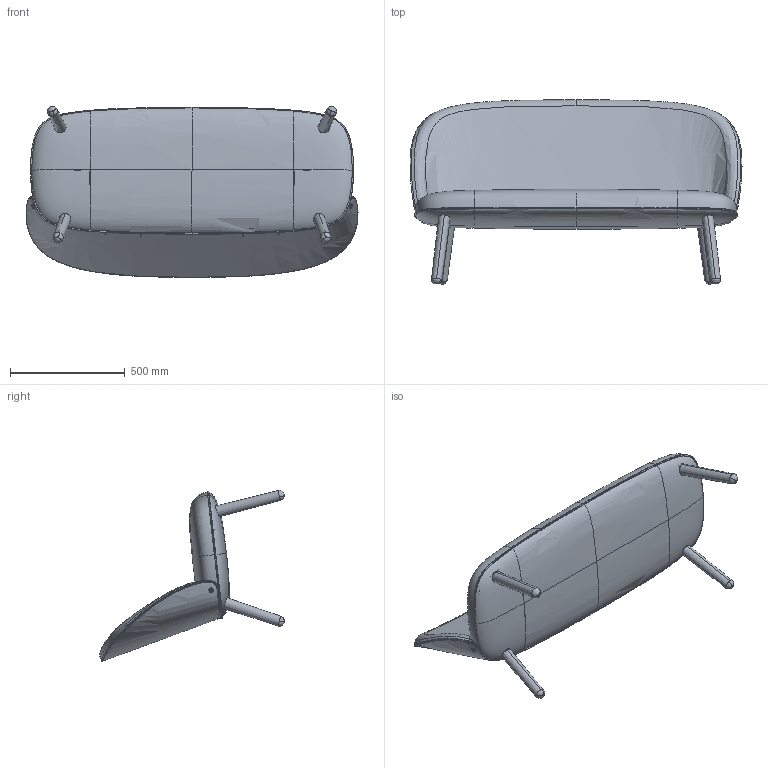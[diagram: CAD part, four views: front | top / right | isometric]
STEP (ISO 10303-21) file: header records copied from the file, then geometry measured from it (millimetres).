
FILE_DESCRIPTION (( 'STEP AP203' ), '1' );
FILE_NAME ('Ace Sofa - Assembled.STEP', '2016-09-14T07:16:21', ( '' ), ( '' ), 'SwSTEP 2.0', 'SolidWorks 2014', '' );
FILE_SCHEMA (( 'CONFIG_CONTROL_DESIGN' ));
Products named in the file (1): Ace Sofa - Assembled
Bounding box: 1446.1 x 803.43 x 745.97 mm (x, y, z)
Volume: 131488960.4 mm3; surface area: 6208446.1 mm2
Topology: 37 solids, 39 shells, 722 faces, 1734 edges, 1116 vertices
Faces by surface type: plane 246, cylinder 238, bspline 196, cone 42
Entity records: 169398 total; most frequent: CARTESIAN_POINT 153805, ORIENTED_EDGE 3452, DIRECTION 2697, EDGE_CURVE 1726, VERTEX_POINT 1116, AXIS2_PLACEMENT_3D 987, EDGE_LOOP 868, LINE 723
